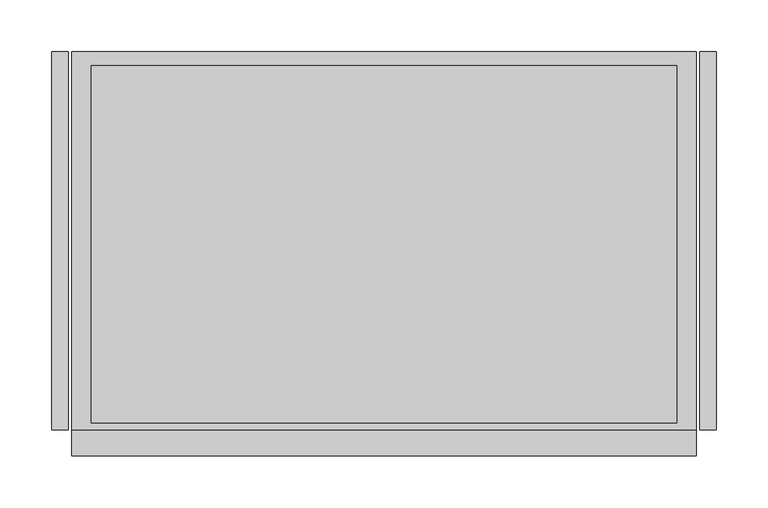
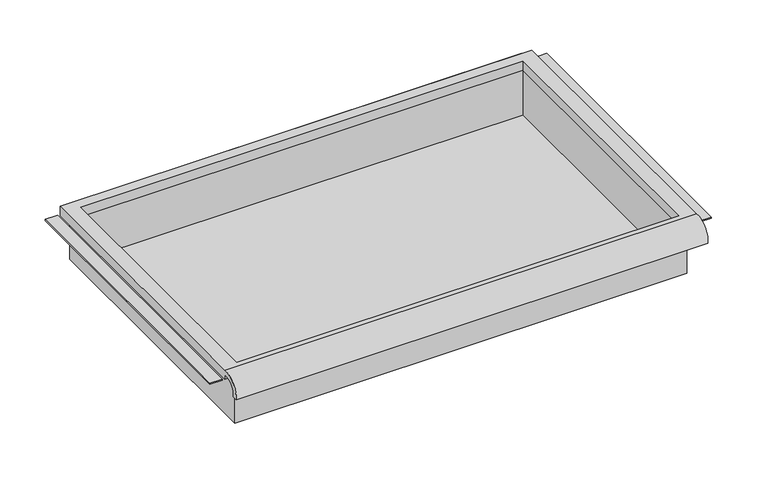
"""IFC4 building model written with IfcOpenShell, lengths in millimetres: furniture geometry."""

from ifc_helpers import new_model, si_unit, frame, origin, place, context, project, spatial, polyline, circle_curve, faceted_brep, source, transform, mapped, element, save
from ifc_brep_helpers import plane_surface, cylinder_surface, revolved_surface, advanced_brep


def furniture_76b79d5f(model_context):
    return source(origin(), model_context, "Body", "SolidModel", [
        advanced_brep(
        [(305.0224999, -195.297482, 891.3849529), (305.0224999, -188.9125, 891.3849529), (305.0224999, -169.8625, 909.6464261), (305.0224999, -169.8625, 903.2964246), (305.0224999, 195.2625, 903.2964246), (305.0224999, 195.2625, 915.9964261), (305.0224999, -169.8625, 915.9964261), (-298.2275001, -195.297482, 891.3849529), (-298.2275001, -169.8625, 915.9964261), (-298.2275001, 195.2625, 915.9964261), (-298.2275001, 195.2625, 903.2964246), (-298.2275001, -169.8625, 903.2964246), (-298.2275001, -169.8625, 909.6464261), (-298.2275001, -188.9125, 891.3849529), (285.9725003, 181.9275, 903.2964246), (-279.1775005, 181.9275, 903.2964246), (-279.1775005, -163.5125, 903.2964246), (285.9725003, -163.5125, 903.2964246), (-279.1775005, 181.9275, 915.9964261), (285.9725003, 181.9275, 915.9964261), (285.9725003, -163.5125, 915.9964261), (-279.1775005, -163.5125, 915.9964261)],
        [
            (0, 1),
            (1, 2, circle_curve(frame((305.0224999, -172.3404634, 893.1643633), z_axis=(-1.0, 0.0, 0.0), x_axis=(0.0, 1.0, 0.0)), 16.6672942)),
            (2, 3),
            (3, 4),
            (4, 5),
            (5, 6),
            (6, 0, circle_curve(frame((305.0224999, -172.4601678, 893.2322533), z_axis=(1.0, 0.0, 0.0), x_axis=(0.0, 1.0, 0.0)), 22.9119061)),
            (7, 8, circle_curve(frame((-298.2275001, -172.4601678, 893.2322533), z_axis=(-1.0, 0.0, 0.0), x_axis=(0.0, 1.0, 0.0)), 22.9119061)),
            (8, 9),
            (9, 10),
            (10, 11),
            (11, 12),
            (12, 13, circle_curve(frame((-298.2275001, -172.3404634, 893.1643633), z_axis=(1.0, 0.0, 0.0), x_axis=(0.0, 1.0, 0.0)), 16.6672942)),
            (13, 7),
            (0, 7),
            (13, 1),
            (12, 2),
            (11, 3),
            (10, 4),
            (14, 15),
            (15, 16),
            (16, 17),
            (17, 14),
            (9, 5),
            (8, 6),
            (18, 19),
            (19, 20),
            (20, 21),
            (21, 18),
            (14, 19),
            (18, 15),
            (21, 16),
            (20, 17),
        ],
        [
            plane_surface(frame((305.0224999, -195.297482, 891.3849529), z_axis=(1.0, 0.0, 0.0), x_axis=(0.0, 1.0, 0.0))),
            plane_surface(frame((-298.2275001, -195.297482, 891.3849529), z_axis=(-1.0, 0.0, 0.0), x_axis=(0.0, -1.0, 0.0))),
            plane_surface(frame((305.0224999, -195.297482, 891.3849529), z_axis=(0.0, 0.0, -1.0), x_axis=(-1.0, 0.0, 0.0))),
            revolved_surface(polyline([(-298.2275001, -155.67316920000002, 893.1643633), (305.0224999, -155.67316920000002, 893.1643633)]), (-298.2275001, -172.3404634, 893.1643633), (-1.0, 0.0, 0.0)),
            plane_surface(frame((305.0224999, -169.8625, 909.6464261), z_axis=(0.0, -1.0, 1.6733277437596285e-12), x_axis=(-1.0, 0.0, 0.0))),
            plane_surface(frame((305.0224999, -169.8625, 903.2964246), z_axis=(0.0, 0.0, -1.0), x_axis=(-1.0, 0.0, 0.0))),
            plane_surface(frame((305.0224999, 195.2625, 903.2964246), z_axis=(0.0, 1.0, 0.0), x_axis=(-1.0, 0.0, 0.0))),
            plane_surface(frame((305.0224999, 195.2625, 915.9964261), z_axis=(0.0, 0.0, 1.0), x_axis=(-1.0, 0.0, 0.0))),
            cylinder_surface(frame((-298.2275001, -172.4601678, 893.2322533), z_axis=(1.0, 0.0, 0.0), x_axis=(0.0, 1.0, 0.0)), 22.9119061),
            plane_surface(frame((285.9725003, 181.9275, 915.9964261), z_axis=(0.0, -1.0, 0.0), x_axis=(0.0, 0.0, -1.0))),
            plane_surface(frame((-279.1775005, 181.9275, 915.9964261), z_axis=(1.0, 0.0, 0.0), x_axis=(0.0, 0.0, -1.0))),
            plane_surface(frame((-279.1775005, -163.5125, 915.9964261), z_axis=(0.0, 1.0, 0.0), x_axis=(0.0, 0.0, -1.0))),
            plane_surface(frame((285.9725003, -163.5125, 915.9964261), z_axis=(-1.0, 0.0, 0.0), x_axis=(0.0, 0.0, -1.0))),
        ],
        [
            (0, [[1, 2, 3, 4, 5, 6, 7]]),
            (1, [[8, 9, 10, 11, 12, 13, 14]]),
            (2, [[-1, 15, -14, 16]]),
            (3, [[-2, -16, -13, 17]]),
            (4, [[-3, -17, -12, 18]]),
            (5, [[-4, -18, -11, 19], [20, 21, 22, 23]]),
            (6, [[-5, -19, -10, 24]]),
            (7, [[-6, -24, -9, 25], [26, 27, 28, 29]]),
            (8, [[-7, -25, -8, -15]]),
            (9, [[30, -26, 31, -20]]),
            (10, [[-31, -29, 32, -21]]),
            (11, [[-32, -28, 33, -22]]),
            (12, [[-30, -23, -33, -27]]),
        ],
    ),
        faceted_brep([(-285.5275005, -169.8625, 839.7964261), (292.3225003, -169.8625, 839.7964261), (292.3225003, -169.8625, 915.9964261), (-285.5275005, -169.8625, 915.9964261), (-285.5275005, 195.2625, 839.7964261), (-285.5275005, 195.2625, 915.9964261), (292.3225003, 195.2625, 915.9964261), (292.3225003, 195.2625, 839.7964261), (-279.1775005, 181.9275, 915.9964261), (285.9725003, 181.9275, 915.9964261), (285.9725003, -163.5125, 915.9964261), (-279.1775005, -163.5125, 915.9964261), (285.9725003, 181.9275, 842.822598), (-279.1775005, 181.9275, 842.822598), (-279.1775005, -163.5125, 842.822598), (285.9725003, -163.5125, 842.822598)], [[[0, 1, 2, 3]], [[4, 5, 6, 7]], [[1, 0, 4, 7]], [[2, 1, 7, 6]], [[3, 2, 6, 5], [8, 9, 10, 11]], [[0, 3, 5, 4]], [[12, 13, 14, 15]], [[13, 12, 9, 8]], [[14, 13, 8, 11]], [[15, 14, 11, 10]], [[12, 15, 10, 9]]]),
        faceted_brep([(-317.2774997, 195.2625, 903.2964246), (-317.2774997, 195.2625, 904.8839246), (-301.4025001, 195.2625, 904.8839246), (-301.4025001, 195.2625, 903.2964246), (-317.2774997, -169.8625, 903.2964246), (-301.4025001, -169.8625, 903.2964246), (-301.4025001, -169.8625, 904.8839246), (-317.2774997, -169.8625, 904.8839246)], [[[0, 1, 2, 3]], [[4, 5, 6, 7]], [[1, 0, 4, 7]], [[2, 1, 7, 6]], [[3, 2, 6, 5]], [[0, 3, 5, 4]]]),
        faceted_brep([(324.0725245, 195.2625, 903.2964246), (308.1974999, 195.2625, 903.2964246), (308.1974999, 195.2625, 904.8839246), (324.0725245, 195.2625, 904.8839246), (324.0725245, -169.8625, 903.2964246), (324.0725245, -169.8625, 904.8839246), (308.1974999, -169.8625, 904.8839246), (308.1974999, -169.8625, 903.2964246)], [[[0, 1, 2, 3]], [[4, 5, 6, 7]], [[1, 0, 4, 7]], [[2, 1, 7, 6]], [[3, 2, 6, 5]], [[0, 3, 5, 4]]]),
    ])


if __name__ == "__main__":
    model = new_model("IFC4")
    model_context = context("Model", 3, world=origin())
    ifc_project = project(units=[si_unit("LENGTHUNIT", "METRE", prefix="MILLI")], contexts=[model_context])
    site = spatial("IfcSite", under=ifc_project)
    building = spatial("IfcBuilding", under=site)
    placement = place(None, origin())
    furniture_shape = furniture_76b79d5f(model_context)
    element("IfcFurniture", 1, ObjectType="HermanMiller_Carts_CT511_Drawer : 3\"H x 15\"D x 24\"W", at=placement, inside=building, context=model_context, shape_type="MappedRepresentation", body=[
        mapped(furniture_shape, transform((0.0, 0.0, 0.0), x_axis=(1.0, 0.0, 0.0), y_axis=(0.0, 1.0, 0.0), z_axis=(0.0, 0.0, 1.0))),
    ])
    save(model, "model.ifc")
